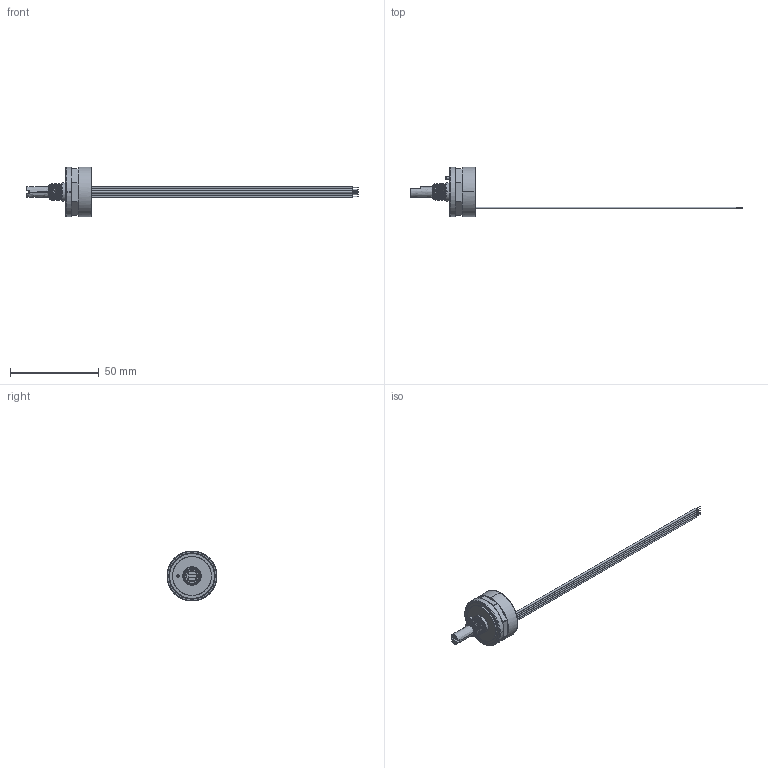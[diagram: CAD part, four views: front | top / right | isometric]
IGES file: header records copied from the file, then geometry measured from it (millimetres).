
Start section: SolidWorks IGES file using analytic representation for surfaces
Global section: file name: O:\30-MegaMotive-neu\09_Projekte & Produkte\04_Sensor Ø28\01_Entwicklung & Projekte\01_Mechanik & Gehäuse\00169_EN(x)28B Gehäuse\01_Aktuell\07_Outline 3D files\01_EN(x)28 B-montiert_00.IGS; native system: SolidWorks 2007; preprocessor: SolidWorks 2007; author: andreb; date: 110829.114233; units: millimetre
Bounding box: 186.9 x 28 x 28 mm (x, y, z)
Surface area: 6437 mm2 (no closed solid volume)
Topology: 0 solids, 0 shells, 139 faces, 2234 edges, 2234 vertices
Faces by surface type: bspline 81, revolution 58
